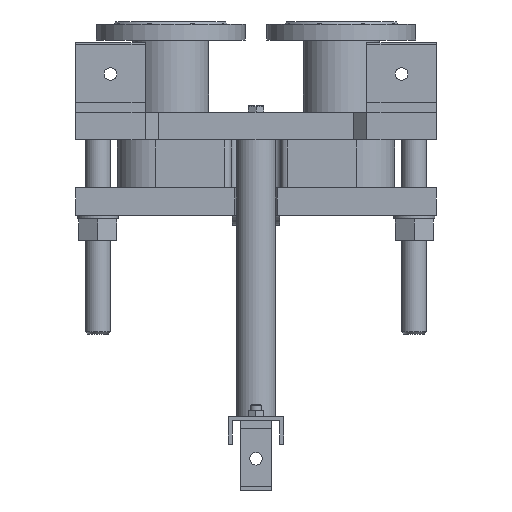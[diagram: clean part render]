
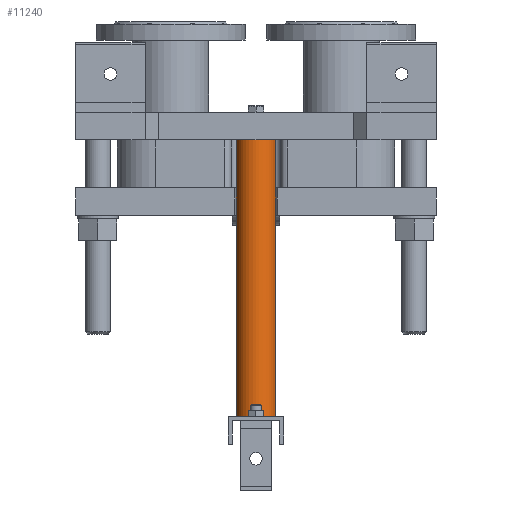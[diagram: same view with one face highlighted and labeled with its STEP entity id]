
A CAD part, front view. The second image highlights one B-rep face of the part: STEP entity #11240.
In plain terms, the highlighted cylindrical face has radius 28.5 mm (diameter 57 mm), a full revolution.
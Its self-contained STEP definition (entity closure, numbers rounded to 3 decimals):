
#781=LINE('',#22043,#1754);
#1754=VECTOR('',#14569,28.5);
#2333=CYLINDRICAL_SURFACE('',#12263,28.5);
#2995=FACE_OUTER_BOUND('',#3777,.T.);
#3777=EDGE_LOOP('',(#9013,#9014,#9015,#9016));
#4462=CIRCLE('',#12264,28.5);
#4463=CIRCLE('',#12265,28.5);
#5286=VERTEX_POINT('',#22040);
#5287=VERTEX_POINT('',#22042);
#6596=EDGE_CURVE('',#5286,#5286,#4462,.T.);
#6597=EDGE_CURVE('',#5286,#5287,#781,.T.);
#6598=EDGE_CURVE('',#5287,#5287,#4463,.T.);
#9013=ORIENTED_EDGE('',*,*,#6596,.F.);
#9014=ORIENTED_EDGE('',*,*,#6597,.T.);
#9015=ORIENTED_EDGE('',*,*,#6598,.T.);
#9016=ORIENTED_EDGE('',*,*,#6597,.F.);
#11240=ADVANCED_FACE('',(#2995),#2333,.T.);
#12263=AXIS2_PLACEMENT_3D('',#22039,#14565,#14566);
#12264=AXIS2_PLACEMENT_3D('',#22041,#14567,#14568);
#12265=AXIS2_PLACEMENT_3D('',#22044,#14570,#14571);
#14565=DIRECTION('center_axis',(0.,0.,
-1.));
#14566=DIRECTION('ref_axis',(-1.,0.,0.));
#14567=DIRECTION('center_axis',(0.,0.,
-1.));
#14568=DIRECTION('ref_axis',(-1.,0.,0.));
#14569=DIRECTION('',(0.,0.,1.));
#14570=DIRECTION('center_axis',(0.,0.,
-1.));
#14571=DIRECTION('ref_axis',(-1.,0.,0.));
#22039=CARTESIAN_POINT('Origin',(0.,215.,0.));
#22040=CARTESIAN_POINT('',(28.5,215.,-399.));
#22041=CARTESIAN_POINT('Origin',(0.,215.,-399.));
#22042=CARTESIAN_POINT('',(28.5,215.,0.));
#22043=CARTESIAN_POINT('',(28.5,215.,0.));
#22044=CARTESIAN_POINT('Origin',(0.,215.,0.));
